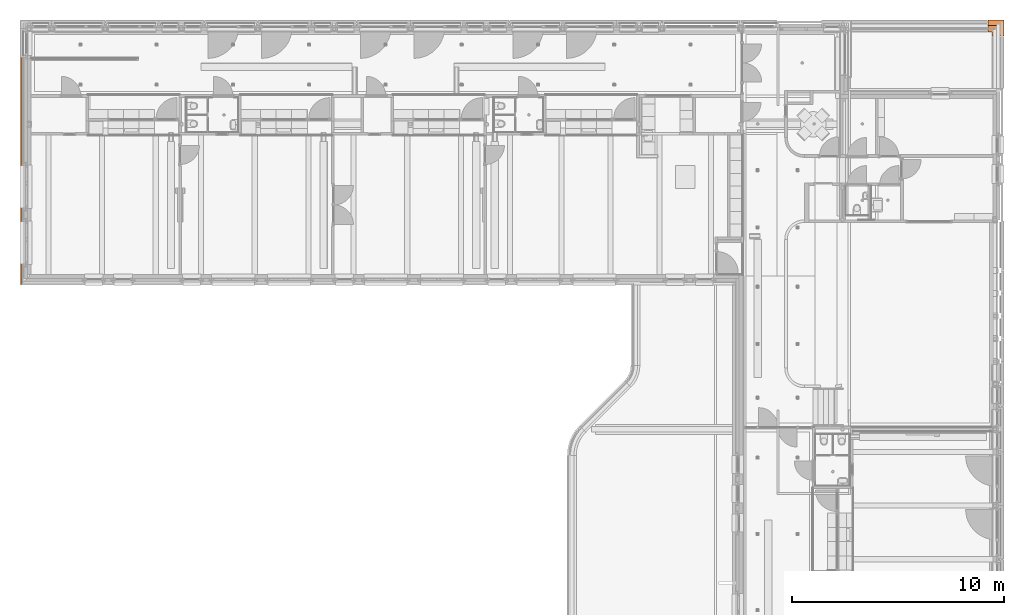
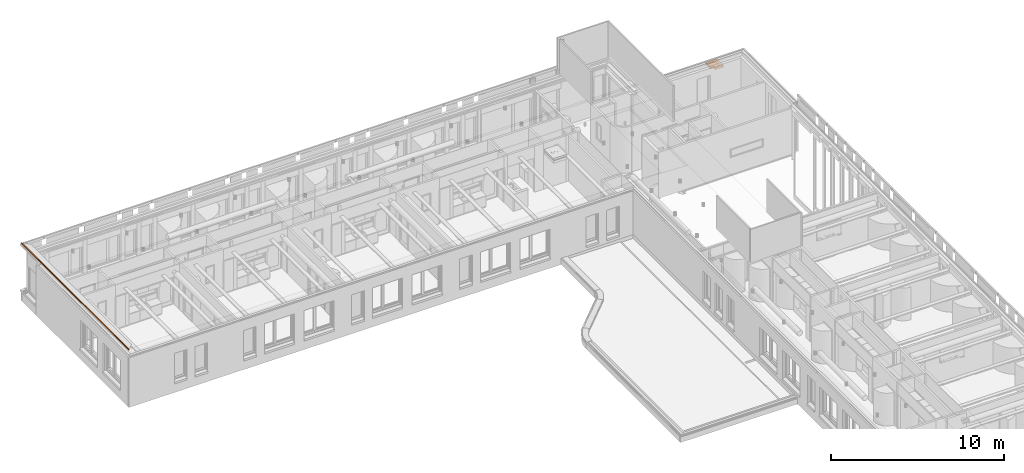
# One storey, part 127 of 128: 2 proxies.
"""IFC2X3 building model written with IfcOpenShell, lengths in millimetres."""

from ifc_helpers import new_model, entity, si_unit, converted_unit, derived_unit, direction, frame, origin, place, context, subcontext, project, spatial, faceted_brep, source, transform, mapped, material, type_object, type_shapes, element, save


model = new_model("IFC2X3")

# Units and contexts
model_context = context("Model", 3, precision=0.01, world=origin(), true_north=direction((6.123031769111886e-17, 1.0)))
body_context = subcontext(model_context, "Body", "Model", "MODEL_VIEW")
ifc_project = project(units=[si_unit("LENGTHUNIT", "METRE", prefix="MILLI"), si_unit("AREAUNIT", "SQUARE_METRE"), si_unit("VOLUMEUNIT", "CUBIC_METRE"), converted_unit("PLANEANGLEUNIT", "DEGREE", entity("IfcRatioMeasure", 0.017453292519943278), si_unit("PLANEANGLEUNIT", "RADIAN"), dimensions=[0, 0, 0, 0, 0, 0, 0]), si_unit("MASSUNIT", "GRAM", prefix="KILO"), derived_unit("MASSDENSITYUNIT", [(si_unit("MASSUNIT", "GRAM", prefix="KILO"), 1), (si_unit("LENGTHUNIT", "METRE"), -3)]), derived_unit("IONCONCENTRATIONUNIT", [(si_unit("MASSUNIT", "GRAM", prefix="KILO"), 1), (si_unit("LENGTHUNIT", "METRE"), -3)]), derived_unit("MOMENTOFINERTIAUNIT", [(si_unit("LENGTHUNIT", "METRE"), 4)]), si_unit("TIMEUNIT", "SECOND"), si_unit("FREQUENCYUNIT", "HERTZ"), si_unit("THERMODYNAMICTEMPERATUREUNIT", "DEGREE_CELSIUS"), derived_unit("THERMALTRANSMITTANCEUNIT", [(si_unit("MASSUNIT", "GRAM", prefix="KILO"), 1), (si_unit("THERMODYNAMICTEMPERATUREUNIT", "KELVIN"), -1), (si_unit("TIMEUNIT", "SECOND"), -3)]), derived_unit("THERMALCONDUCTANCEUNIT", [(si_unit("MASSUNIT", "GRAM", prefix="KILO"), 1), (si_unit("THERMODYNAMICTEMPERATUREUNIT", "KELVIN"), -1), (si_unit("TIMEUNIT", "SECOND"), -3), (si_unit("LENGTHUNIT", "METRE"), 1)]), derived_unit("VOLUMETRICFLOWRATEUNIT", [(si_unit("LENGTHUNIT", "METRE"), 3), (si_unit("TIMEUNIT", "SECOND"), -1)]), derived_unit("MASSFLOWRATEUNIT", [(si_unit("MASSUNIT", "GRAM", prefix="KILO"), 1), (si_unit("TIMEUNIT", "SECOND"), -1)]), derived_unit("ROTATIONALFREQUENCYUNIT", [(si_unit("TIMEUNIT", "SECOND"), -1)]), si_unit("ELECTRICCURRENTUNIT", "AMPERE"), si_unit("ELECTRICVOLTAGEUNIT", "VOLT"), si_unit("POWERUNIT", "WATT"), si_unit("FORCEUNIT", "NEWTON", prefix="KILO"), si_unit("ILLUMINANCEUNIT", "LUX"), si_unit("LUMINOUSFLUXUNIT", "LUMEN"), si_unit("LUMINOUSINTENSITYUNIT", "CANDELA"), derived_unit("USERDEFINED", [(si_unit("MASSUNIT", "GRAM", prefix="KILO"), -1), (si_unit("LENGTHUNIT", "METRE"), -2), (si_unit("TIMEUNIT", "SECOND"), 3), (si_unit("LUMINOUSFLUXUNIT", "LUMEN"), 1)]), derived_unit("USERDEFINED", [(si_unit("MASSUNIT", "GRAM", prefix="KILO"), 1), (si_unit("TIMEUNIT", "SECOND"), -3), (si_unit("LENGTHUNIT", "METRE"), 3), (si_unit("ELECTRICCURRENTUNIT", "AMPERE"), -2)]), derived_unit("SOUNDPOWERUNIT", [(si_unit("MASSUNIT", "GRAM", prefix="KILO"), 1), (si_unit("TIMEUNIT", "SECOND"), -3), (si_unit("LENGTHUNIT", "METRE"), 2)]), derived_unit("SOUNDPRESSUREUNIT", [(si_unit("MASSUNIT", "GRAM", prefix="KILO"), 1), (si_unit("LENGTHUNIT", "METRE"), -1), (si_unit("TIMEUNIT", "SECOND"), -2)]), derived_unit("LINEARVELOCITYUNIT", [(si_unit("LENGTHUNIT", "METRE"), 1), (si_unit("TIMEUNIT", "SECOND"), -1)]), si_unit("PRESSUREUNIT", "PASCAL"), derived_unit("USERDEFINED", [(si_unit("MASSUNIT", "GRAM", prefix="KILO"), 1), (si_unit("LENGTHUNIT", "METRE"), -2), (si_unit("TIMEUNIT", "SECOND"), -2)]), derived_unit("LINEARFORCEUNIT", [(si_unit("MASSUNIT", "GRAM", prefix="KILO"), 1), (si_unit("TIMEUNIT", "SECOND"), -2)]), derived_unit("PLANARFORCEUNIT", [(si_unit("MASSUNIT", "GRAM", prefix="KILO"), 1), (si_unit("LENGTHUNIT", "METRE"), -1), (si_unit("TIMEUNIT", "SECOND"), -2)]), derived_unit("SPECIFICHEATCAPACITYUNIT", [(si_unit("THERMODYNAMICTEMPERATUREUNIT", "KELVIN"), -1), (si_unit("LENGTHUNIT", "METRE"), 2), (si_unit("TIMEUNIT", "SECOND"), -2)]), derived_unit("HEATINGVALUEUNIT", [(si_unit("LENGTHUNIT", "METRE"), 2), (si_unit("TIMEUNIT", "SECOND"), -2)]), derived_unit("VAPORPERMEABILITYUNIT", [(si_unit("LENGTHUNIT", "METRE"), -1), (si_unit("TIMEUNIT", "SECOND"), 1)]), derived_unit("DYNAMICVISCOSITYUNIT", [(si_unit("MASSUNIT", "GRAM", prefix="KILO"), 1), (si_unit("TIMEUNIT", "SECOND"), -1), (si_unit("LENGTHUNIT", "METRE"), -1)]), derived_unit("THERMALEXPANSIONCOEFFICIENTUNIT", [(si_unit("THERMODYNAMICTEMPERATUREUNIT", "KELVIN"), -1)]), derived_unit("MODULUSOFELASTICITYUNIT", [(si_unit("MASSUNIT", "GRAM", prefix="KILO"), 1), (si_unit("LENGTHUNIT", "METRE"), -1), (si_unit("TIMEUNIT", "SECOND"), -2)]), derived_unit("ISOTHERMALMOISTURECAPACITYUNIT", [(si_unit("LENGTHUNIT", "METRE"), 3), (si_unit("MASSUNIT", "GRAM", prefix="KILO"), -1)]), derived_unit("MOISTUREDIFFUSIVITYUNIT", [(si_unit("TIMEUNIT", "SECOND"), -1), (si_unit("LENGTHUNIT", "METRE"), 2)])], contexts=[model_context])

# Site, building, storey
site_placement = place(None, frame((0.0, 300.0, 0.0)))
site = spatial("IfcSite", under=ifc_project, at=site_placement, Name="<Kadastrale nummers>", CompositionType="ELEMENT")
building_placement = place(site_placement, origin())
building = spatial("IfcBuilding", under=site, at=building_placement, CompositionType="ELEMENT")
storey_placement = place(building_placement, frame((0.0, 0.0, 3560.0000331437)))
storey = spatial("IfcBuildingStorey", under=building, at=storey_placement, Name="01 eerste verdieping", CompositionType="ELEMENT", Elevation=3560.0000331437)

# Proxies
ifc_material_1 = material(Name="ISR_Beton_prefab")
building_element_proxy_type_1 = type_object("IfcBuildingElementProxyType", Name="29_dat_hoek Dakplaat:29_dat_hoek Dakplaat", PredefinedType="NOTDEFINED", material=ifc_material_1)
shared_shape_1 = source(origin(), body_context, "Body", "Brep", [
    faceted_brep([(0.0, -500.0, 0.0), (-15.0, -500.0, 0.0), (-295.0, -500.0, -9.777815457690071), (-295.0, -500.0, -175.0), (265.0, -500.0, -175.0), (265.0, -500.0, -43.8721658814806), (0.0, -500.0, -20.68767004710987), (0.0, 0.0, 0.0), (-500.0, 0.0, 0.0), (-500.0, -15.0, 0.0), (-15.0, -15.0, 0.0), (-500.0, 0.0, -20.687670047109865), (-500.0, 265.0, -43.8721658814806), (-500.0, 265.0, -175.0), (-500.0, -295.0, -175.0), (-500.0, -295.0, -9.77781545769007), (-295.0, -295.0, -9.777815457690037), (-295.0, -295.0, -175.0), (265.0, 265.0, -175.0), (265.0, 265.0, -43.8721658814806), (0.0, 0.0, -20.68767004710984)], [[[0, 1, 2, 3, 4, 5, 6]], [[1, 0, 7, 8, 9, 10]], [[8, 11, 12, 13, 14, 15, 9]], [[2, 1, 10, 16]], [[3, 2, 16, 17]], [[4, 3, 17, 14, 13, 18]], [[5, 4, 18, 19]], [[6, 5, 19, 20]], [[0, 6, 20, 7]], [[16, 10, 9, 15]], [[17, 16, 15, 14]], [[19, 18, 13, 12]], [[20, 19, 12, 11]], [[7, 20, 11, 8]]]),
])
type_shapes(building_element_proxy_type_1, [shared_shape_1])
proxy_1_placement = place(storey_placement, frame((48760.0, 49960.0, 890.0000018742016)))
element("IfcBuildingElementProxy", 1, at=proxy_1_placement, inside=storey, type_object=building_element_proxy_type_1, material=ifc_material_1, Name="29_dat_hoek Dakplaat:29_dat_hoek Dakplaat", ObjectType="29_dat_hoek Dakplaat:29_dat_hoek Dakplaat", context=body_context, shape_type="MappedRepresentation", body=[
    mapped(shared_shape_1, transform((0.0, 0.0, 0.0), scale=1.0)),
])
ifc_material_2 = material(Name="STAAL_RAL 7006")
building_element_proxy_type_2 = type_object("IfcBuildingElementProxyType", Name="NLRS_42_GM_WPB_dakrand_gen_ISR:dakrand_gen", PredefinedType="NOTDEFINED", material=ifc_material_2)
shared_shape_2 = source(origin(), body_context, "Body", "Brep", [
    faceted_brep([(6241.0, 1.0, 14.0), (6241.781831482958, 0.2181685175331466, 13.623489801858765), (6242.0, 0.0, 13.0), (6242.0, 0.0, -39.696774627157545), (6241.524976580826, 0.4750234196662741, -40.54789129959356), (6240.7411809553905, 1.2588190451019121, -40.66270045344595), (6230.7479140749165, 11.252085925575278, -37.98501266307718), (6230.04080729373, 11.959192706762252, -36.76026779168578), (6231.265552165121, 10.734447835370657, -36.05316101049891), (6238.74118095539, 3.258819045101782, -38.05624970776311), (6239.686241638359, 2.313758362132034, -37.81769752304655), (6240.0, 2.0, -37.0903238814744), (6240.0, 2.0, -28.0), (6239.6234898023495, 2.3765101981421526, -27.21816851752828), (6239.0, 3.0, -27.0), (6236.0, 6.0, -27.0), (6235.218168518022, 6.781831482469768, -26.623489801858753), (6235.0, 7.0, -26.0), (6235.0, 7.0, -23.0), (6236.1045284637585, 5.895471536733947, -22.005478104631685), (6237.0, 5.0, -23.0), (6237.0, 5.0, -24.0), (6237.376510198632, 4.623489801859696, -24.781831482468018), (6238.0, 4.0, -25.0), (6239.0, 3.0, -25.0), (6239.781831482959, 2.218168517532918, -24.623489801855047), (6240.0, 2.0, -24.0), (6240.0, 2.0, -1.0), (6239.6234898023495, 2.3765101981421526, -0.21816851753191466), (6239.0, 3.0, 0.0), (6238.0, 4.0, 0.0), (6237.218168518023, 4.78183148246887, -0.3765101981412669), (6237.0, 5.0, -1.0), (6237.0, 5.0, -2.0), (6235.895471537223, 6.1045284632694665, -2.9945218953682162), (6235.0, 7.0, -2.0), (6235.0, 7.0, -1.0), (6234.623489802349, 7.376510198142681, -0.21816851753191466), (6234.0, 8.0, 0.0), (6172.0, 70.0, 0.0), (6171.500000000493, 70.49999999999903, 0.4999999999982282), (6172.0, 70.0, 1.0), (6176.5000000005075, 65.49999999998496, 2.0), (6239.0, 3.0, 2.0), (6239.781831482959, 2.218168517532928, 2.3765101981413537), (6240.0, 2.0, 3.0), (6240.0, 2.0, 11.0), (6239.6234898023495, 2.376510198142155, 11.781831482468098), (6239.0, 3.0, 12.0), (6231.0, 11.0, 12.0), (6230.0, 12.0, 13.0), (6231.0, 11.0, 14.0), (-6239.78183148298, 2.2181685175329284, 2.376510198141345), (-6240.0, 2.0, 3.0), (-6239.0, 3.0, 2.0), (-6239.623489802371, 2.3765101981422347, 11.781831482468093), (-6239.0, 3.0, 12.0), (-6240.0, 2.0, 11.0), (-6231.0, 11.0, 14.0), (-6230.0, 12.0, 13.0), (-6231.0, 11.0, 12.0), (-6242.0, 0.0, 13.0), (-6241.78183148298, 0.21816851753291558, 13.62348980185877), (-6241.0, 1.0, 14.0), (-6240.7411809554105, 1.258819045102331, -40.662700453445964), (-6241.524976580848, 0.47502341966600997, -40.54789129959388), (-6242.0, 0.0, -39.69677462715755), (-6231.265552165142, 10.734447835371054, -36.05316101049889), (-6230.04080729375, 11.95919270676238, -36.76026779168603), (-6230.747914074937, 11.252085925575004, -37.98501266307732), (-6239.686241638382, 2.3137583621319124, -37.81769752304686), (-6240.0, 2.0, -37.090323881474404), (-6238.741180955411, 3.2588190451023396, -38.056249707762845), (-6239.623489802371, 2.37651019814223, -27.218168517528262), (-6239.0, 3.0, -27.0), (-6240.0, 2.0, -28.0), (-6176.50000000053, 65.49999999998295, 2.0), (-6172.0, 70.0, 1.0), (-6171.500000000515, 70.49999999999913, 0.49999999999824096), (-6172.0, 70.0, 0.0), (-6234.0, 8.0, 0.0), (-6239.0, 3.0, 0.0), (-6238.0, 4.0, 0.0), (-6234.623489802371, 7.376510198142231, -0.21816851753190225), (-6235.0, 7.0, -1.0), (-6235.0, 7.0, -2.0), (-6235.0, 7.0, -26.0), (-6235.0, 7.0, -23.0), (-6235.895471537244, 6.1045284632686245, -2.994521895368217), (-6237.0, 5.0, -2.0), (-6237.0, 5.0, -1.0), (-6237.0, 5.0, -23.0), (-6237.0, 5.0, -24.0), (-6237.218168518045, 4.781831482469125, -0.3765101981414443), (-6239.623489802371, 2.376510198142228, -0.21816851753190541), (-6240.0, 2.0, -1.0), (-6240.0, 2.0, -24.0), (-6239.78183148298, 2.2181685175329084, -24.623489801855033), (-6239.0, 3.0, -25.0), (-6238.0, 4.0, -25.0), (-6237.376510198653, 4.623489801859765, -24.781831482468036), (-6236.10452846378, 5.895471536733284, -22.00547810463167), (-6235.218168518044, 6.781831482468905, -26.62348980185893), (-6236.0, 6.0, -27.0)], [[[0, 1, 2, 3, 4, 5, 6, 7, 8, 9, 10, 11, 12, 13, 14, 15, 16, 17, 18, 19, 20, 21, 22, 23, 24, 25, 26, 27, 28, 29, 30, 31, 32, 33, 34, 35, 36, 37, 38, 39, 40, 41, 42, 43, 44, 45, 46, 47, 48, 49, 50, 51]], [[45, 44, 52, 53]], [[43, 54, 52, 44]], [[48, 47, 55, 56]], [[46, 57, 55, 47]], [[58, 51, 50, 59]], [[50, 49, 60, 59]], [[61, 2, 1, 62]], [[1, 0, 63, 62]], [[64, 5, 4, 65]], [[4, 3, 66, 65]], [[67, 8, 7, 68]], [[7, 6, 69, 68]], [[11, 10, 70, 71]], [[9, 72, 70, 10]], [[14, 13, 73, 74]], [[12, 75, 73, 13]], [[76, 54, 43, 42]], [[77, 76, 42, 41]], [[77, 41, 40, 78]], [[40, 39, 79, 78]], [[80, 79, 39, 38]], [[81, 82, 30, 29]], [[38, 37, 83, 80]], [[36, 84, 83, 37]], [[85, 84, 36, 35]], [[86, 87, 18, 17]], [[85, 35, 34, 88]], [[34, 33, 89, 88]], [[90, 89, 33, 32]], [[91, 92, 21, 20]], [[32, 31, 93, 90]], [[30, 82, 93, 31]], [[29, 28, 94, 81]], [[27, 95, 94, 28]], [[96, 95, 27, 26]], [[71, 75, 12, 11]], [[53, 57, 46, 45]], [[26, 25, 97, 96]], [[24, 98, 97, 25]], [[99, 98, 24, 23]], [[23, 22, 100, 99]], [[21, 92, 100, 22]], [[91, 20, 19, 101]], [[19, 18, 87, 101]], [[86, 17, 16, 102]], [[16, 15, 103, 102]], [[74, 103, 15, 14]], [[67, 72, 9, 8]], [[64, 69, 6, 5]], [[61, 66, 3, 2]], [[58, 63, 0, 51]], [[56, 60, 49, 48]], [[61, 62, 63, 58, 59, 60, 56, 55, 57, 53, 52, 54, 76, 77, 78, 79, 80, 83, 84, 85, 88, 89, 90, 93, 82, 81, 94, 95, 96, 97, 98, 99, 100, 92, 91, 101, 87, 86, 102, 103, 74, 73, 75, 71, 70, 72, 67, 68, 69, 64, 65, 66]]]),
])
type_shapes(building_element_proxy_type_2, [shared_shape_2])
proxy_2_placement = place(storey_placement, frame((2608.0, 43950.0, 4157.999966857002), z_axis=(0.0, 0.0, 1.0), x_axis=(0.0, -1.0, 0.0)))
element("IfcBuildingElementProxy", 2, at=proxy_2_placement, inside=storey, type_object=building_element_proxy_type_2, material=ifc_material_2, Name="NLRS_42_GM_WPB_dakrand_gen_ISR:dakrand_gen", ObjectType="NLRS_42_GM_WPB_dakrand_gen_ISR:dakrand_gen", context=body_context, shape_type="MappedRepresentation", body=[
    mapped(shared_shape_2, transform((0.0, 0.0, 0.0), scale=1.0)),
])

save(model, "model.ifc")
